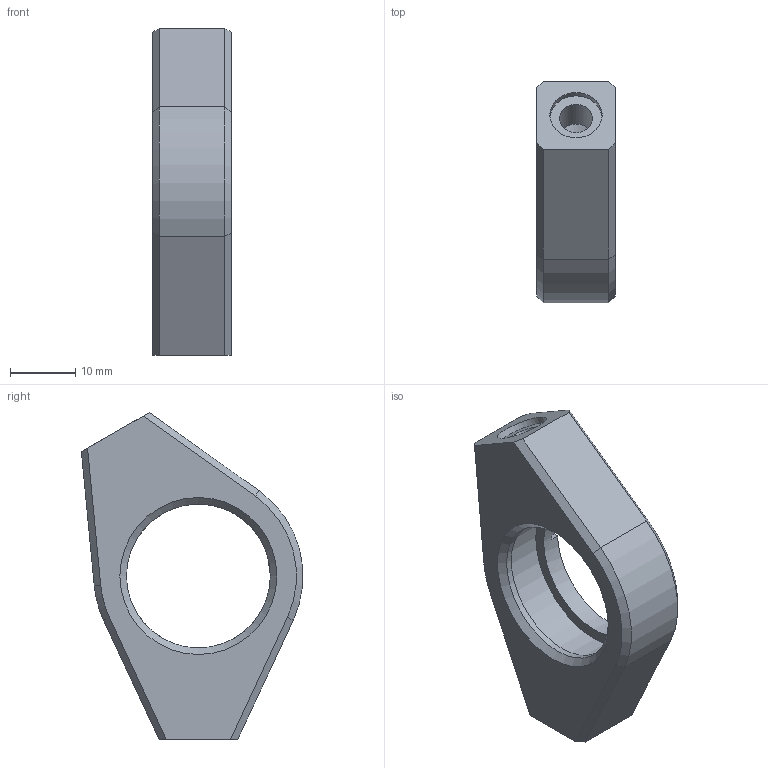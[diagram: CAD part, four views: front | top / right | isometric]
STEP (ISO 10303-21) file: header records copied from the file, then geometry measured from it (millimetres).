
FILE_DESCRIPTION(/* description */ (''),/* implementation_level */ '2;1');
FILE_NAME(/* name */ 'Y:\3DDATA\2_OpticalHard\01_国内製品\2_Holders\LHF\LHF-25.4S-N\LHF25.4S-N.stp',/* time_stamp */ '2014-08-07T17:04:04+09:00',/* author */ ('e.nonaka'),/* organization */ (''),/* preprocessor_version */ 'ST-DEVELOPER v15.2',/* originating_system */ 'Autodesk Inventor 2014',/* authorisation */ '');
FILE_SCHEMA (('AUTOMOTIVE_DESIGN { 1 0 10303 214 3 1 1 }'));
Length unit declared in the file: millimetre
Products named in the file (1): LHF25.4S-N-M02-10001-TS01
Bounding box: 12 x 33.84 x 50 mm (x, y, z)
Volume: 8150.8 mm3; surface area: 4433.4 mm2
Topology: 1 solids, 1 shells, 48 faces, 115 edges, 73 vertices
Faces by surface type: plane 30, cylinder 11, cone 7
Full cylindrical faces by diameter (mm): 4.917 x1, 4.978 x1, 8 x2, 22 x2, 25.4 x1
Entity records: 1310 total; most frequent: DIRECTION 232, CARTESIAN_POINT 215, ORIENTED_EDGE 198, EDGE_CURVE 99, AXIS2_PLACEMENT_3D 84, VERTEX_POINT 67, EDGE_LOOP 64, LINE 64
